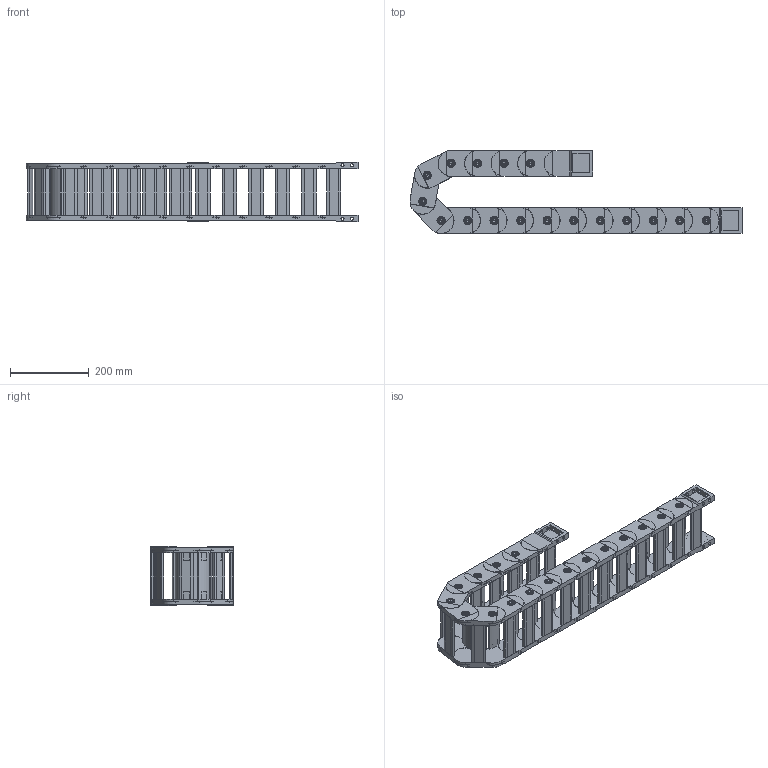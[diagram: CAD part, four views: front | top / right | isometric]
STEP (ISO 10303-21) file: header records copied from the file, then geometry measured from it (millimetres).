
FILE_DESCRIPTION((''),'2;1');
FILE_NAME('HD-45-LK-R75_ASM','2023-04-13T18:07:46',('admin'),(''),'CREO PARAMETRIC BY PTC INC, 2021164','CREO PARAMETRIC BY PTC INC, 2021164','');
FILE_SCHEMA(('CONFIG_CONTROL_DESIGN','GEOMETRIC_VALIDATION_PROPERTIES_MIM'));
Length unit declared in the file: millimetre
Products named in the file (6): HD-45-LK; 45-750001; HD-45-LK_ASM; H45-T2-G; H45-T1-G; HD-45-LK-R75_ASM
Assembly tree (23 placements, depth 3):
  HD-45-LK-R75_ASM
    HD-45-LK_ASM  x17
      HD-45-LK
      45-750001
    H45-T2-G
    H45-T1-G
    45-750001  x2
Bounding box: 845.15 x 210.68 x 150.4 mm (x, y, z)
Volume: 3597093.7 mm3; surface area: 1206381.9 mm2
Topology: 76 solids, 76 shells, 1826 faces, 4654 edges, 3094 vertices
Faces by surface type: plane 1112, cylinder 306, torus 204, cone 136, sphere 68
Entity records: 11252 total; most frequent: DIRECTION 1480, CARTESIAN_POINT 1464, ORIENTED_EDGE 1348, PRESENTATION_STYLE_ASSIGNMENT 704, STYLED_ITEM 688, CURVE_STYLE 674, EDGE_CURVE 674, AXIS2_PLACEMENT_3D 525
